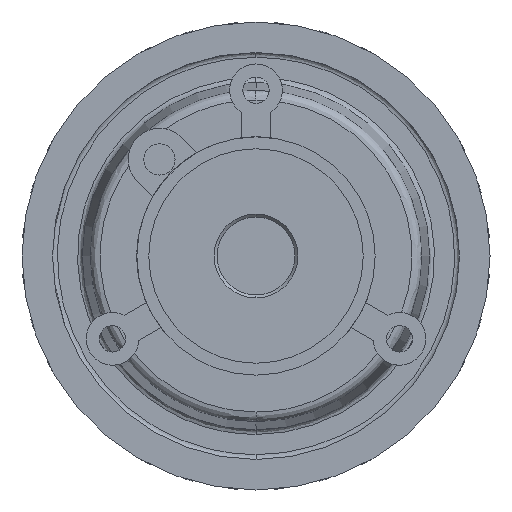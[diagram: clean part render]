
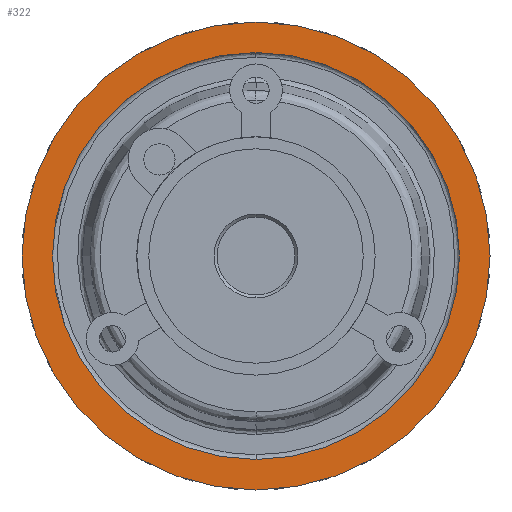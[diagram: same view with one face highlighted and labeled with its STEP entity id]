
A CAD part, left-side view. The second image highlights one B-rep face of the part: STEP entity #322.
In plain terms, the highlighted planar face has unit normal (-1, 0, 0).
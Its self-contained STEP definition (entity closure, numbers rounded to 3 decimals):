
#151 = CIRCLE ( 'NONE', #2231, 20.87 ) ;
#190 = DIRECTION ( 'NONE',  ( 0., 0., 1. ) ) ;
#211 = VERTEX_POINT ( 'NONE', #2098 ) ;
#296 = DIRECTION ( 'NONE',  ( 1., 0., 0. ) ) ;
#322 = ADVANCED_FACE ( 'NONE', ( #1889, #3926 ), #7231, .F. ) ;
#372 = CARTESIAN_POINT ( 'NONE',  ( 0.3, 0., 0. ) ) ;
#636 = ORIENTED_EDGE ( 'NONE', *, *, #2728, .F. ) ;
#759 = AXIS2_PLACEMENT_3D ( 'NONE', #372, #296, #190 ) ;
#814 = CIRCLE ( 'NONE', #759, 24. ) ;
#995 = VERTEX_POINT ( 'NONE', #2550 ) ;
#1315 = EDGE_CURVE ( 'NONE', #995, #211, #5048, .T. ) ;
#1392 = VERTEX_POINT ( 'NONE', #4520 ) ;
#1656 = EDGE_LOOP ( 'NONE', ( #6311, #6610 ) ) ;
#1889 = FACE_BOUND ( 'NONE', #1656, .T. ) ;
#2098 = CARTESIAN_POINT ( 'NONE',  ( 0.3, 0., 20.87 ) ) ;
#2231 = AXIS2_PLACEMENT_3D ( 'NONE', #7678, #7662, #7616 ) ;
#2441 = AXIS2_PLACEMENT_3D ( 'NONE', #6081, #2497, #6705 ) ;
#2449 = ORIENTED_EDGE ( 'NONE', *, *, #5684, .F. ) ;
#2497 = DIRECTION ( 'NONE',  ( 1., 0., 0. ) ) ;
#2550 = CARTESIAN_POINT ( 'NONE',  ( 0.3, 0., -20.87 ) ) ;
#2728 = EDGE_CURVE ( 'NONE', #1392, #5483, #814, .T. ) ;
#2832 = CARTESIAN_POINT ( 'NONE',  ( 0.3, 0., 24. ) ) ;
#3122 = EDGE_CURVE ( 'NONE', #211, #995, #151, .T. ) ;
#3189 = CIRCLE ( 'NONE', #2441, 24. ) ;
#3563 = AXIS2_PLACEMENT_3D ( 'NONE', #6324, #6429, #6439 ) ;
#3926 = FACE_OUTER_BOUND ( 'NONE', #5100, .T. ) ;
#4520 = CARTESIAN_POINT ( 'NONE',  ( 0.3, 0., -24. ) ) ;
#4588 = AXIS2_PLACEMENT_3D ( 'NONE', #5938, #5918, #5885 ) ;
#5048 = CIRCLE ( 'NONE', #4588, 20.87 ) ;
#5100 = EDGE_LOOP ( 'NONE', ( #2449, #636 ) ) ;
#5483 = VERTEX_POINT ( 'NONE', #2832 ) ;
#5684 = EDGE_CURVE ( 'NONE', #5483, #1392, #3189, .T. ) ;
#5885 = DIRECTION ( 'NONE',  ( 0., 0., 1. ) ) ;
#5918 = DIRECTION ( 'NONE',  ( 1., 0., 0. ) ) ;
#5938 = CARTESIAN_POINT ( 'NONE',  ( 0.3, 0., 0. ) ) ;
#6081 = CARTESIAN_POINT ( 'NONE',  ( 0.3, 0., 0. ) ) ;
#6311 = ORIENTED_EDGE ( 'NONE', *, *, #3122, .T. ) ;
#6324 = CARTESIAN_POINT ( 'NONE',  ( 0.3, 20.87, 0. ) ) ;
#6429 = DIRECTION ( 'NONE',  ( 1., 0., 0. ) ) ;
#6439 = DIRECTION ( 'NONE',  ( 0., 0., -1. ) ) ;
#6610 = ORIENTED_EDGE ( 'NONE', *, *, #1315, .T. ) ;
#6705 = DIRECTION ( 'NONE',  ( 0., 0., 1. ) ) ;
#7231 = PLANE ( 'NONE',  #3563 ) ;
#7616 = DIRECTION ( 'NONE',  ( 0., 0., 1. ) ) ;
#7662 = DIRECTION ( 'NONE',  ( 1., 0., 0. ) ) ;
#7678 = CARTESIAN_POINT ( 'NONE',  ( 0.3, 0., 0. ) ) ;
